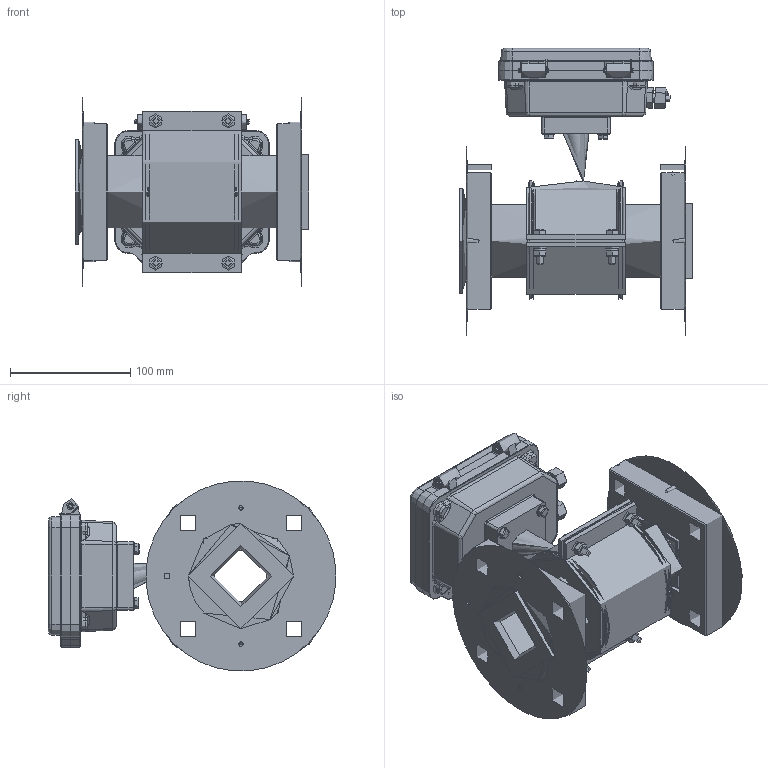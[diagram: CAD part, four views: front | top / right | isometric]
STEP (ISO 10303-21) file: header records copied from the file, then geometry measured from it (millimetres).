
FILE_DESCRIPTION(('STEP AP214'), '1');
FILE_NAME('Âçëåò ÝÐ ÏÐÎÔÈ DN50 Ôëàíåö', '', ('UNSPECIFIED'), ('UNSPECIFIED'), 'ASCON STEP Converter 1.6', 'ASCON Math Kernel', '');
FILE_SCHEMA(('AUTOMOTIVE_DESIGN { 1 0 10303 214 3 1 1}'));
Length unit declared in the file: millimetre
Products named in the file (1): 婽挭.407212.031-031.08
Bounding box: 194 x 238.64 x 157.4 mm (x, y, z)
Topology: 6 solids, 11 shells, 1306 faces, 3162 edges, 1917 vertices
Faces by surface type: plane 544, cylinder 401, cone 182, torus 139, bspline 38, sphere 2
Full cylindrical faces by diameter (mm): 0.8 x2, 2 x2, 3 x4, 3.242 x14, 3.3 x2, 3.7 x4, 4 x10, 4.134 x2, 4.917 x4, 5 x1, 5.5 x1, 6 x8, 6.3 x2, 6.4 x4, 7 x16, 7.5 x2, 8 x2, 10 x4, 11 x4, 12 x8, 12.5 x2, 16.5 x2, 18 x9, 19 x1, 20 x1, 21 x1, 25 x1, 30 x1, 45 x1, 59 x2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
Entity records: 67885 total; most frequent: CARTESIAN_POINT 22811, DIRECTION 6350, ORIENTED_EDGE 5658, EDGE_CURVE 2829, AXIS2_PLACEMENT_3D 2530, VERTEX_POINT 1887, EDGE_LOOP 1766, FACE_BOUND 1335
